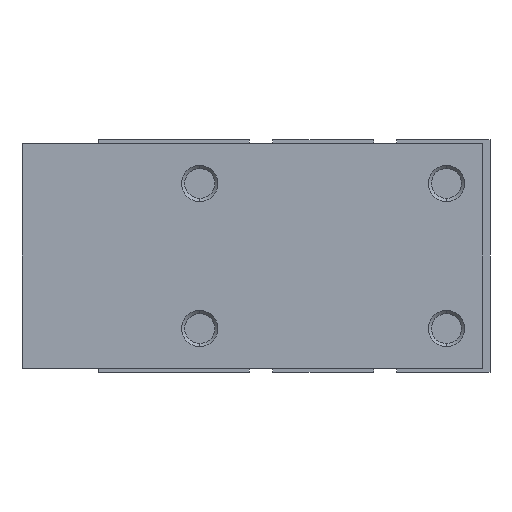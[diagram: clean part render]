
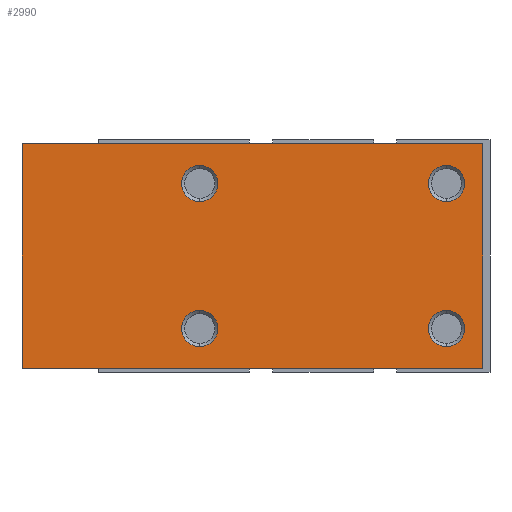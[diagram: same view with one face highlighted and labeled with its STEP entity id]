
A CAD part, left-side view. The second image highlights one B-rep face of the part: STEP entity #2990.
In plain terms, the highlighted planar face has unit normal (-1, 0, 0).
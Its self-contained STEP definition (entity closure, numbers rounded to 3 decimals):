
#30 = CARTESIAN_POINT ( 'NONE',  ( -15.5, -17., 7.5 ) ) ;
#96 = AXIS2_PLACEMENT_3D ( 'NONE', #3605, #4978, #1682 ) ;
#105 = DIRECTION ( 'NONE',  ( 1., 0., 0. ) ) ;
#167 = CARTESIAN_POINT ( 'NONE',  ( -15.5, -17., 10. ) ) ;
#170 = CARTESIAN_POINT ( 'NONE',  ( -15.5, -17., 12.5 ) ) ;
#176 = EDGE_LOOP ( 'NONE', ( #766, #2468 ) ) ;
#247 = VECTOR ( 'NONE', #2140, 1000. ) ;
#250 = DIRECTION ( 'NONE',  ( 0., 0., 1. ) ) ;
#280 = VERTEX_POINT ( 'NONE', #555 ) ;
#311 = LINE ( 'NONE', #5040, #247 ) ;
#326 = DIRECTION ( 'NONE',  ( 0., 0., 1. ) ) ;
#366 = AXIS2_PLACEMENT_3D ( 'NONE', #1620, #1746, #2109 ) ;
#404 = EDGE_CURVE ( 'NONE', #2614, #2428, #3425, .T. ) ;
#555 = CARTESIAN_POINT ( 'NONE',  ( -15.5, 17., -7.5 ) ) ;
#601 = ORIENTED_EDGE ( 'NONE', *, *, #4494, .F. ) ;
#625 = CARTESIAN_POINT ( 'NONE',  ( -15.5, 41.5, 15.5 ) ) ;
#740 = DIRECTION ( 'NONE',  ( -1., 0., 0. ) ) ;
#766 = ORIENTED_EDGE ( 'NONE', *, *, #1960, .F. ) ;
#918 = EDGE_LOOP ( 'NONE', ( #3411, #4018 ) ) ;
#979 = LINE ( 'NONE', #5991, #5256 ) ;
#1129 = DIRECTION ( 'NONE',  ( 0., 1., 0. ) ) ;
#1170 = AXIS2_PLACEMENT_3D ( 'NONE', #5500, #5986, #2285 ) ;
#1489 = EDGE_CURVE ( 'NONE', #2674, #1516, #5734, .T. ) ;
#1516 = VERTEX_POINT ( 'NONE', #30 ) ;
#1537 = FACE_BOUND ( 'NONE', #3305, .T. ) ;
#1611 = CARTESIAN_POINT ( 'NONE',  ( -15.5, -17., -7.5 ) ) ;
#1620 = CARTESIAN_POINT ( 'NONE',  ( -15.5, 17., -10. ) ) ;
#1682 = DIRECTION ( 'NONE',  ( 0., 0., 1. ) ) ;
#1689 = EDGE_CURVE ( 'NONE', #2428, #5502, #4598, .T. ) ;
#1706 = CARTESIAN_POINT ( 'NONE',  ( -15.5, 41.5, -15.5 ) ) ;
#1746 = DIRECTION ( 'NONE',  ( -1., 0., 0. ) ) ;
#1830 = VECTOR ( 'NONE', #3711, 1000. ) ;
#1849 = FACE_BOUND ( 'NONE', #5243, .T. ) ;
#1863 = CARTESIAN_POINT ( 'NONE',  ( -15.5, -17., 10. ) ) ;
#1885 = VERTEX_POINT ( 'NONE', #5379 ) ;
#1887 = CIRCLE ( 'NONE', #5684, 2.5 ) ;
#1960 = EDGE_CURVE ( 'NONE', #280, #4748, #2991, .T. ) ;
#2109 = DIRECTION ( 'NONE',  ( 0., 0., 1. ) ) ;
#2140 = DIRECTION ( 'NONE',  ( 0., 0., -1. ) ) ;
#2202 = AXIS2_PLACEMENT_3D ( 'NONE', #5490, #3550, #326 ) ;
#2285 = DIRECTION ( 'NONE',  ( 0., 0., 1. ) ) ;
#2428 = VERTEX_POINT ( 'NONE', #1706 ) ;
#2468 = ORIENTED_EDGE ( 'NONE', *, *, #3201, .F. ) ;
#2573 = ORIENTED_EDGE ( 'NONE', *, *, #2758, .F. ) ;
#2614 = VERTEX_POINT ( 'NONE', #625 ) ;
#2632 = ORIENTED_EDGE ( 'NONE', *, *, #404, .T. ) ;
#2668 = ORIENTED_EDGE ( 'NONE', *, *, #4170, .F. ) ;
#2674 = VERTEX_POINT ( 'NONE', #170 ) ;
#2758 = EDGE_CURVE ( 'NONE', #5730, #1885, #1887, .T. ) ;
#2968 = CARTESIAN_POINT ( 'NONE',  ( -15.5, 41.5, 15.5 ) ) ;
#2990 = ADVANCED_FACE ( 'NONE', ( #6001, #6034, #1849, #3710, #1537 ), #4285, .F. ) ;
#2991 = CIRCLE ( 'NONE', #366, 2.5 ) ;
#3189 = CARTESIAN_POINT ( 'NONE',  ( -15.5, 41.5, -15.5 ) ) ;
#3201 = EDGE_CURVE ( 'NONE', #4748, #280, #3343, .T. ) ;
#3305 = EDGE_LOOP ( 'NONE', ( #601, #2573 ) ) ;
#3343 = CIRCLE ( 'NONE', #5689, 2.5 ) ;
#3411 = ORIENTED_EDGE ( 'NONE', *, *, #3724, .F. ) ;
#3425 = LINE ( 'NONE', #3482, #3501 ) ;
#3462 = CIRCLE ( 'NONE', #2202, 2.5 ) ;
#3482 = CARTESIAN_POINT ( 'NONE',  ( -15.5, 41.5, 15.5 ) ) ;
#3485 = AXIS2_PLACEMENT_3D ( 'NONE', #1863, #3718, #5595 ) ;
#3491 = ORIENTED_EDGE ( 'NONE', *, *, #5383, .F. ) ;
#3501 = VECTOR ( 'NONE', #5872, 1000. ) ;
#3550 = DIRECTION ( 'NONE',  ( -1., 0., 0. ) ) ;
#3599 = CIRCLE ( 'NONE', #96, 2.5 ) ;
#3605 = CARTESIAN_POINT ( 'NONE',  ( -15.5, -17., -10. ) ) ;
#3710 = FACE_BOUND ( 'NONE', #918, .T. ) ;
#3711 = DIRECTION ( 'NONE',  ( 0., -1., 0. ) ) ;
#3718 = DIRECTION ( 'NONE',  ( -1., 0., 0. ) ) ;
#3724 = EDGE_CURVE ( 'NONE', #5616, #6008, #5266, .T. ) ;
#3859 = CIRCLE ( 'NONE', #5231, 2.5 ) ;
#4018 = ORIENTED_EDGE ( 'NONE', *, *, #4077, .F. ) ;
#4020 = AXIS2_PLACEMENT_3D ( 'NONE', #2968, #105, #1129 ) ;
#4034 = CARTESIAN_POINT ( 'NONE',  ( -15.5, 17., -10. ) ) ;
#4077 = EDGE_CURVE ( 'NONE', #6008, #5616, #3599, .T. ) ;
#4170 = EDGE_CURVE ( 'NONE', #2614, #5794, #979, .T. ) ;
#4285 = PLANE ( 'NONE',  #4020 ) ;
#4326 = ORIENTED_EDGE ( 'NONE', *, *, #1489, .F. ) ;
#4468 = DIRECTION ( 'NONE',  ( 0., 0., 1. ) ) ;
#4490 = CARTESIAN_POINT ( 'NONE',  ( -15.5, -17., -12.5 ) ) ;
#4494 = EDGE_CURVE ( 'NONE', #1885, #5730, #3462, .T. ) ;
#4527 = DIRECTION ( 'NONE',  ( 0., 0., 1. ) ) ;
#4598 = LINE ( 'NONE', #3189, #1830 ) ;
#4625 = ORIENTED_EDGE ( 'NONE', *, *, #4811, .F. ) ;
#4724 = ORIENTED_EDGE ( 'NONE', *, *, #1689, .T. ) ;
#4748 = VERTEX_POINT ( 'NONE', #4921 ) ;
#4811 = EDGE_CURVE ( 'NONE', #1516, #2674, #3859, .T. ) ;
#4921 = CARTESIAN_POINT ( 'NONE',  ( -15.5, 17., -12.5 ) ) ;
#4978 = DIRECTION ( 'NONE',  ( -1., 0., 0. ) ) ;
#5001 = CARTESIAN_POINT ( 'NONE',  ( -15.5, -22., 15.5 ) ) ;
#5012 = DIRECTION ( 'NONE',  ( -1., 0., 0. ) ) ;
#5040 = CARTESIAN_POINT ( 'NONE',  ( -15.5, -22., 15.5 ) ) ;
#5231 = AXIS2_PLACEMENT_3D ( 'NONE', #167, #5322, #250 ) ;
#5243 = EDGE_LOOP ( 'NONE', ( #4326, #4625 ) ) ;
#5256 = VECTOR ( 'NONE', #5531, 1000. ) ;
#5266 = CIRCLE ( 'NONE', #1170, 2.5 ) ;
#5322 = DIRECTION ( 'NONE',  ( -1., 0., 0. ) ) ;
#5379 = CARTESIAN_POINT ( 'NONE',  ( -15.5, 17., 12.5 ) ) ;
#5383 = EDGE_CURVE ( 'NONE', #5794, #5502, #311, .T. ) ;
#5387 = CARTESIAN_POINT ( 'NONE',  ( -15.5, 17., 10. ) ) ;
#5490 = CARTESIAN_POINT ( 'NONE',  ( -15.5, 17., 10. ) ) ;
#5500 = CARTESIAN_POINT ( 'NONE',  ( -15.5, -17., -10. ) ) ;
#5502 = VERTEX_POINT ( 'NONE', #5532 ) ;
#5516 = EDGE_LOOP ( 'NONE', ( #4724, #3491, #2668, #2632 ) ) ;
#5531 = DIRECTION ( 'NONE',  ( 0., -1., 0. ) ) ;
#5532 = CARTESIAN_POINT ( 'NONE',  ( -15.5, -22., -15.5 ) ) ;
#5595 = DIRECTION ( 'NONE',  ( 0., 0., 1. ) ) ;
#5616 = VERTEX_POINT ( 'NONE', #1611 ) ;
#5684 = AXIS2_PLACEMENT_3D ( 'NONE', #5387, #740, #4468 ) ;
#5689 = AXIS2_PLACEMENT_3D ( 'NONE', #4034, #5012, #4527 ) ;
#5730 = VERTEX_POINT ( 'NONE', #5858 ) ;
#5734 = CIRCLE ( 'NONE', #3485, 2.5 ) ;
#5794 = VERTEX_POINT ( 'NONE', #5001 ) ;
#5858 = CARTESIAN_POINT ( 'NONE',  ( -15.5, 17., 7.5 ) ) ;
#5872 = DIRECTION ( 'NONE',  ( 0., 0., -1. ) ) ;
#5986 = DIRECTION ( 'NONE',  ( -1., 0., 0. ) ) ;
#5991 = CARTESIAN_POINT ( 'NONE',  ( -15.5, 41.5, 15.5 ) ) ;
#6001 = FACE_OUTER_BOUND ( 'NONE', #5516, .T. ) ;
#6008 = VERTEX_POINT ( 'NONE', #4490 ) ;
#6034 = FACE_BOUND ( 'NONE', #176, .T. ) ;
